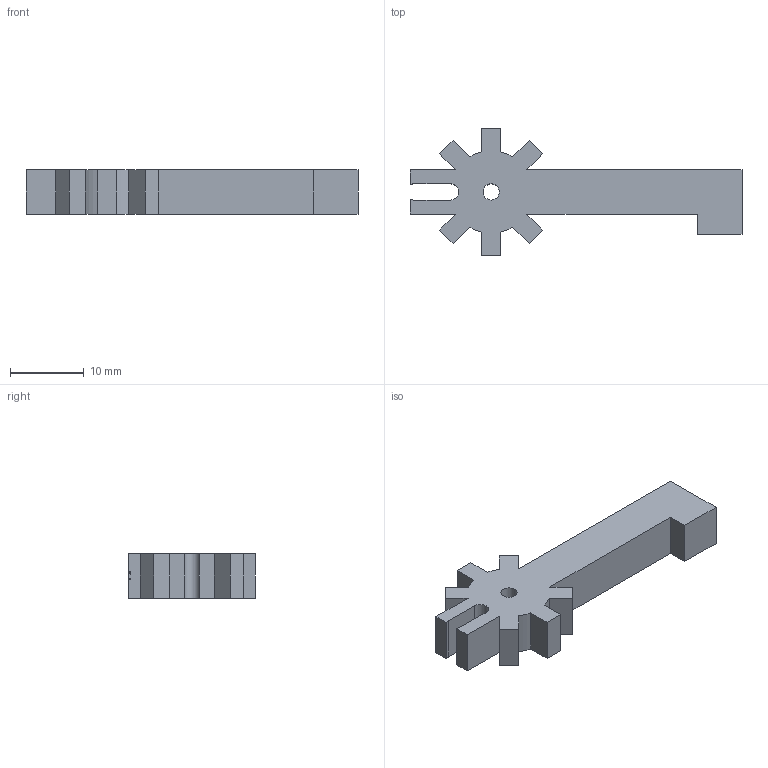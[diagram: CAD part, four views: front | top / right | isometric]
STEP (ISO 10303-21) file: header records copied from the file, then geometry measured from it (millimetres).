
FILE_DESCRIPTION(('Open CASCADE Model'),'2;1');
FILE_NAME('Open CASCADE Shape Model','2026-07-25T17:39:15',('Author'),( 'Open CASCADE'),'Open CASCADE STEP processor 7.9','build123d', 'Unknown');
FILE_SCHEMA(('AUTOMOTIVE_DESIGN { 1 0 10303 214 1 1 1 1 }'));
Length unit declared in the file: millimetre
Products named in the file (2): =>[0:1:1:2]; COMPOUND
Assembly tree (1 placements, depth 2):
  =>[0:1:1:2]
    COMPOUND
Bounding box: 45 x 17.2 x 6 mm (x, y, z)
Volume: 2102.5 mm3; surface area: 1710.6 mm2
Topology: 1 solids, 1 shells, 89 faces, 252 edges, 168 vertices
Faces by surface type: plane 49, extrusion 32, cylinder 8
Full cylindrical faces by diameter (mm): 2.2 x1
Entity records: 6535 total; most frequent: CARTESIAN_POINT 1879, DIRECTION 683, VECTOR 518, ORIENTED_EDGE 504, PCURVE 504, DEFINITIONAL_REPRESENTATION 504, LINE 486, B_SPLINE_CURVE_WITH_KNOTS 270
